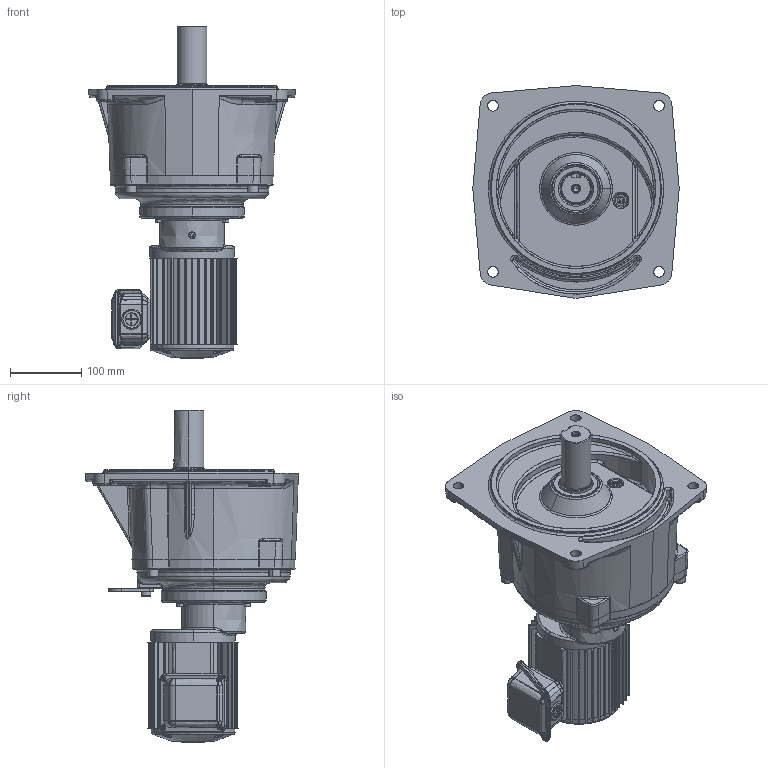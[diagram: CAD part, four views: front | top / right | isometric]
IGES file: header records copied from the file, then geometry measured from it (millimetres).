
Start section: SolidWorks IGES file using analytic representation for surfaces
Global section: file name: \\100.100.100.8\1_共有作業フォルダ\1-5_３Ｄデータ\solidworks\personal-folder\H.Nagayama\SGP1外形\P1(3D)\igs\TMF2-02-(600~1200).IGS; native system: SolidWorks 2018; preprocessor: SolidWorks 2018; author: sigma-giken; date: 200611.103529; units: millimetre
Bounding box: 290 x 299 x 466.5 mm (x, y, z)
Surface area: 712777.4 mm2 (no closed solid volume)
Topology: 0 solids, 0 shells, 1658 faces, 20334 edges, 20259 vertices
Faces by surface type: bspline 898, revolution 760
